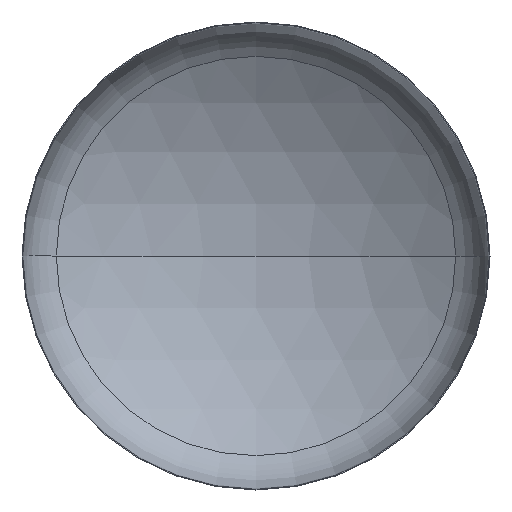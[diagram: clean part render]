
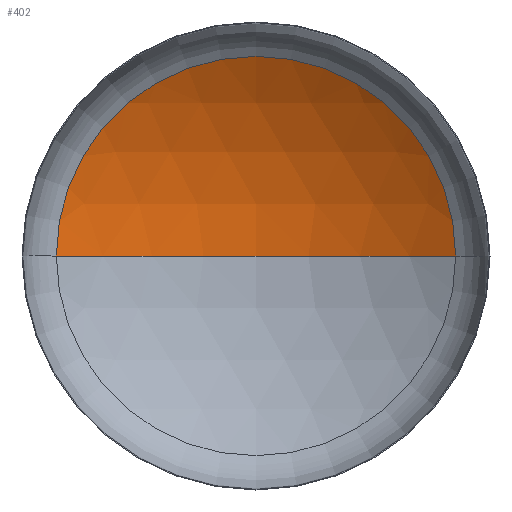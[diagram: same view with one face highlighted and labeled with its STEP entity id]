
A CAD part, front view. The second image highlights one B-rep face of the part: STEP entity #402.
In plain terms, the highlighted spherical face has radius 6000 mm.
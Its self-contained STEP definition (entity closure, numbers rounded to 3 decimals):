
#26 = AXIS2_PLACEMENT_3D ( 'NONE', #185, #288, #285 ) ;
#32 = AXIS2_PLACEMENT_3D ( 'NONE', #284, #280, #277 ) ;
#34 = AXIS2_PLACEMENT_3D ( 'NONE', #291, #289, #303 ) ;
#43 = VERTEX_POINT ( 'NONE', #242 ) ;
#57 = ORIENTED_EDGE ( 'NONE', *, *, #76, .T. ) ;
#63 = ORIENTED_EDGE ( 'NONE', *, *, #78, .T. ) ;
#76 = EDGE_CURVE ( 'NONE', #104, #127, #138, .T. ) ;
#77 = DIRECTION ( 'NONE',  ( 0., 0., -1. ) ) ;
#78 = EDGE_CURVE ( 'NONE', #43, #104, #390, .T. ) ;
#82 = EDGE_CURVE ( 'NONE', #43, #127, #333, .T. ) ;
#104 = VERTEX_POINT ( 'NONE', #166 ) ;
#116 = ORIENTED_EDGE ( 'NONE', *, *, #82, .F. ) ;
#119 = EDGE_LOOP ( 'NONE', ( #116, #63, #57 ) ) ;
#127 = VERTEX_POINT ( 'NONE', #172 ) ;
#138 = CIRCLE ( 'NONE', #34, 3200. ) ;
#166 = CARTESIAN_POINT ( 'NONE',  ( 3200., 1017.02, 0. ) ) ;
#172 = CARTESIAN_POINT ( 'NONE',  ( -3200., 1017.02, 0. ) ) ;
#185 = CARTESIAN_POINT ( 'NONE',  ( 0., -4058.411, 0. ) ) ;
#208 = CARTESIAN_POINT ( 'NONE',  ( 0., -4058.411, 0. ) ) ;
#216 = SPHERICAL_SURFACE ( 'NONE', #314, 6000. ) ;
#231 = DIRECTION ( 'NONE',  ( -1., 0., 0. ) ) ;
#242 = CARTESIAN_POINT ( 'NONE',  ( 0., 1941.589, 0. ) ) ;
#277 = DIRECTION ( 'NONE',  ( -1., 0., 0. ) ) ;
#280 = DIRECTION ( 'NONE',  ( 0., 0., -1. ) ) ;
#284 = CARTESIAN_POINT ( 'NONE',  ( 0., -4058.411, 0. ) ) ;
#285 = DIRECTION ( 'NONE',  ( 1., 0., 0. ) ) ;
#288 = DIRECTION ( 'NONE',  ( 0., 0., 1. ) ) ;
#289 = DIRECTION ( 'NONE',  ( 0., -1., 0. ) ) ;
#291 = CARTESIAN_POINT ( 'NONE',  ( 0., 1017.02, 0. ) ) ;
#303 = DIRECTION ( 'NONE',  ( 1., 0., 0. ) ) ;
#314 = AXIS2_PLACEMENT_3D ( 'NONE', #208, #77, #231 ) ;
#333 = CIRCLE ( 'NONE', #26, 6000. ) ;
#337 = FACE_OUTER_BOUND ( 'NONE', #119, .T. ) ;
#390 = CIRCLE ( 'NONE', #32, 6000. ) ;
#402 = ADVANCED_FACE ( 'NONE', ( #337 ), #216, .F. ) ;
